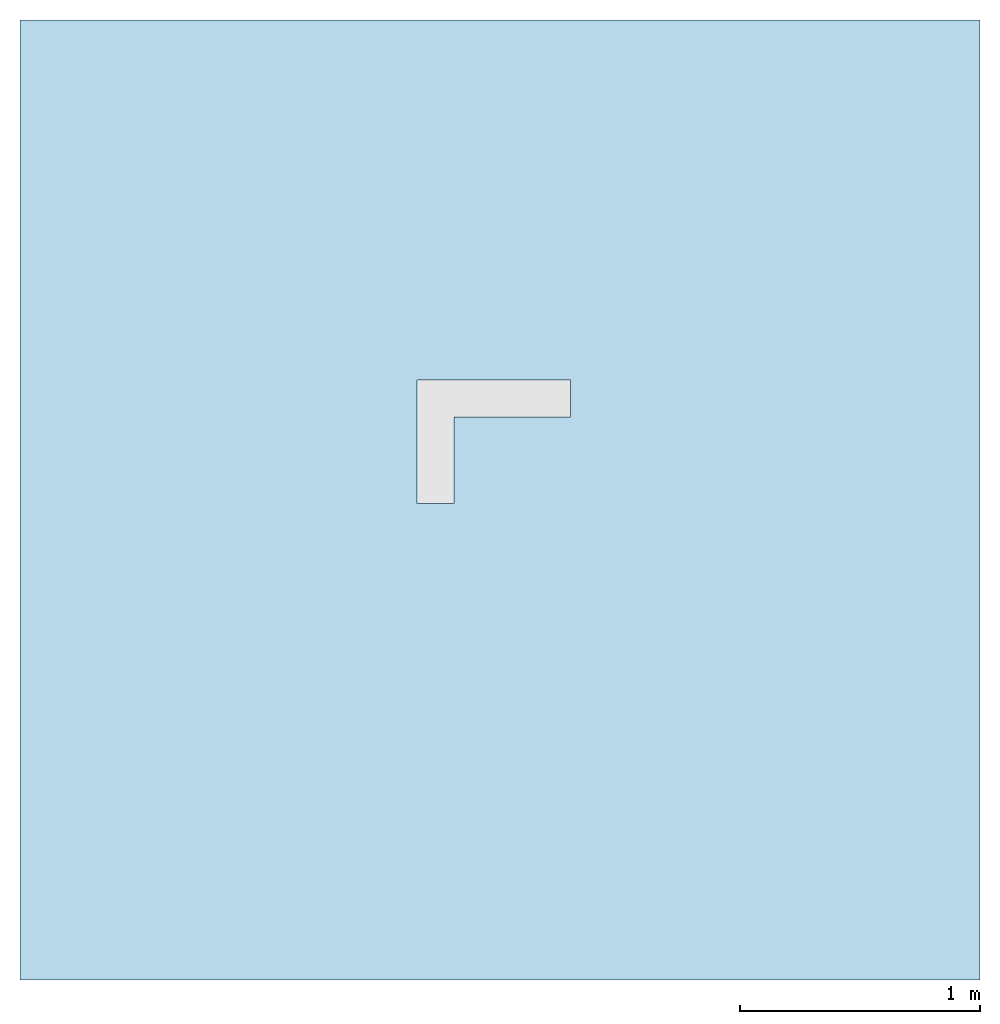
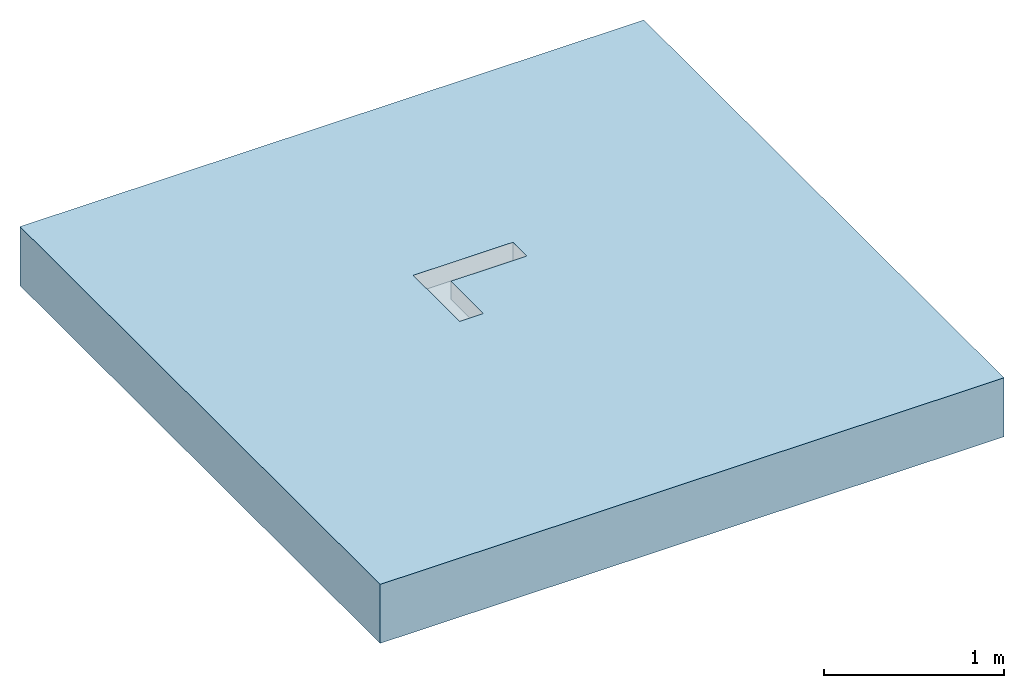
# One storey, incomplete: 1 slab, 1 opening.
"""IFC2X3 building model written with IfcOpenShell, lengths in millimetres."""

import ifcopenshell
import ifcopenshell.guid

model = None  # the IFC model being written
_history = None  # IfcOwnerHistory: only IFC2X3 demands one
_inside = {}  # id of a spatial element -> (the spatial element, [elements in it])
_under = {}  # id of a project, library or spatial element -> (it, [spatial elements below it])
_declared = {}  # id of a project -> (the project, [libraries it declares])
_typed = {}  # id of a type object -> (the type object, [elements of that type])
_made_of = {}  # id of a material, layer set ... -> (it, [elements and type objects made of it])


def new_model(schema):
    """Start an empty IFC model of exactly this schema.

    Asked for "IFC4X3", IfcOpenShell would pick the latest addendum, in which some entities
    have other attributes; the version numbers below select the first issue.
    IFC2X3 requires an IfcOwnerHistory on every rooted entity: one is made here for all.
    """
    global model, _history
    if schema == "IFC4X3":
        model = ifcopenshell.file(schema_version=(4, 3, 0, 0))
    else:
        model = ifcopenshell.file(schema=schema)
    _inside.clear()
    _under.clear()
    _declared.clear()
    _typed.clear()
    _made_of.clear()
    _history = None
    if model.schema == "IFC2X3":
        org = make("IfcOrganization", Name="unknown")
        user = make(
            "IfcPersonAndOrganization",
            ThePerson=make("IfcPerson", FamilyName="unknown"),
            TheOrganization=org,
        )
        app = make(
            "IfcApplication",
            ApplicationDeveloper=org,
            Version="unknown",
            ApplicationFullName="unknown",
            ApplicationIdentifier="unknown",
        )
        _history = make(
            "IfcOwnerHistory",
            OwningUser=user,
            OwningApplication=app,
            ChangeAction="ADDED",
            CreationDate=0,
        )
    return model


def make(cls, **values):
    """One entity of the class cls with the attributes given. An attribute that is None is left unset."""
    return model.create_entity(
        cls, **{name: value for name, value in values.items() if value is not None}
    )


def entity(cls, *values):
    """Any entity or typed value of the class cls, its attributes in the order of the schema. None: left unset."""
    e = model.create_entity(cls)
    for i, value in enumerate(values):
        if value is not None:
            e[i] = value
    return e


def rooted(cls, **values):
    """An entity with a GlobalId (a new one), such as an element, a storey or a relation."""
    return make(cls, GlobalId=ifcopenshell.guid.new(), OwnerHistory=_history, **values)


def si_unit(unit_type, name, prefix=None):
    """IfcSIUnit, for example si_unit("LENGTHUNIT", "METRE", prefix="MILLI")."""
    return make("IfcSIUnit", UnitType=unit_type, Prefix=prefix, Name=name)


def converted_unit(unit_type, name, factor, base, dimensions=None, offset=None):
    """IfcConversionBasedUnit, such as the inch: factor (a typed value) times the base unit."""
    return make(
        "IfcConversionBasedUnit"
        if offset is None
        else "IfcConversionBasedUnitWithOffset",
        ConversionOffset=offset,
        Dimensions=None
        if dimensions is None
        else entity("IfcDimensionalExponents", *dimensions),
        UnitType=unit_type,
        Name=name,
        ConversionFactor=make(
            "IfcMeasureWithUnit", ValueComponent=factor, UnitComponent=base
        ),
    )


def assignment(units):
    """IfcUnitAssignment: the units of a project."""
    return None if units is None else make("IfcUnitAssignment", Units=units)


def point(xyz):
    """IfcCartesianPoint."""
    return None if xyz is None else make("IfcCartesianPoint", Coordinates=xyz)


def direction(xyz):
    """IfcDirection."""
    return None if xyz is None else make("IfcDirection", DirectionRatios=xyz)


def frame(location, z_axis=None, x_axis=None):
    """IfcAxis2Placement3D, a coordinate frame: its origin and axes. An axis left out is left unset."""
    return make(
        "IfcAxis2Placement3D",
        Location=point(location),
        Axis=direction(z_axis),
        RefDirection=direction(x_axis),
    )


def frame_2d(location, x_axis=None):
    """IfcAxis2Placement2D, a coordinate frame in the plane: its origin and x axis."""
    return make(
        "IfcAxis2Placement2D", Location=point(location), RefDirection=direction(x_axis)
    )


def origin():
    """The frame at (0, 0, 0) with its axes left unset."""
    return frame((0.0, 0.0, 0.0))


def place(relative_to, where):
    """IfcLocalPlacement: puts the frame where relative to a parent placement (None: the world)."""
    return make(
        "IfcLocalPlacement", PlacementRelTo=relative_to, RelativePlacement=where
    )


def context(
    kind, dimensions, precision=None, world=None, true_north=None, identifier=None
):
    """IfcGeometricRepresentationContext, for example the 3D "Model" context."""
    return make(
        "IfcGeometricRepresentationContext",
        ContextIdentifier=identifier,
        ContextType=kind,
        CoordinateSpaceDimension=dimensions,
        Precision=precision,
        WorldCoordinateSystem=world,
        TrueNorth=true_north,
    )


def subcontext(parent, identifier, kind, view, scale=None):
    """IfcGeometricRepresentationSubContext, for example "Body" below "Model"."""
    return make(
        "IfcGeometricRepresentationSubContext",
        ContextIdentifier=identifier,
        ContextType=kind,
        ParentContext=parent,
        TargetScale=scale,
        TargetView=view,
    )


def project(units=None, contexts=None):
    """IfcProject with its units and contexts."""
    return rooted(
        "IfcProject",
        Name="project",
        RepresentationContexts=contexts,
        UnitsInContext=assignment(units),
    )


def spatial(cls, under=None, at=None, **own):
    """A site, building, storey or space (cls), placed at a placement, below another one or the project."""
    s = rooted(cls, ObjectPlacement=at, **own)
    if under is not None:
        _under.setdefault(under.id(), (under, []))[1].append(s)
    return s


def polyline(points):
    """IfcPolyline through the points."""
    return make("IfcPolyline", Points=[point(p) for p in points])


def profile(cls, at=None, kind="AREA", **sizes):
    """A parametric profile (cls). Its sizes go by their IFC names, for example OverallWidth=200.0."""
    return make(cls, ProfileType=kind, Position=at, **sizes)


def rectangle(**sizes):
    """IfcRectangleProfileDef."""
    return profile("IfcRectangleProfileDef", **sizes)


def outline(outer, holes=None, kind="AREA"):
    """IfcArbitraryClosedProfileDef: a profile drawn as a closed curve; with holes, ...WithVoids."""
    if holes is None:
        return make("IfcArbitraryClosedProfileDef", ProfileType=kind, OuterCurve=outer)
    return make(
        "IfcArbitraryProfileDefWithVoids",
        ProfileType=kind,
        OuterCurve=outer,
        InnerCurves=holes,
    )


def extrude(swept, where, along, depth):
    """IfcExtrudedAreaSolid: the profile swept, set in the frame where, extruded along a direction by depth."""
    return make(
        "IfcExtrudedAreaSolid",
        SweptArea=swept,
        Position=where,
        ExtrudedDirection=direction(along),
        Depth=depth,
    )


def shape(context_of_items, identifier, shape_type, items):
    """IfcShapeRepresentation: the items that make up one representation, for example the "Body"."""
    return make(
        "IfcShapeRepresentation",
        ContextOfItems=context_of_items,
        RepresentationIdentifier=identifier,
        RepresentationType=shape_type,
        Items=items,
    )


def material(Name=None, Category=None):
    """IfcMaterial."""
    return make("IfcMaterial", Name=Name, Category=Category)


def layer(
    of_material, thickness, ventilated=None, Name=None, Category=None, Priority=None
):
    """IfcMaterialLayer: one layer of a wall or slab, of a material (None: an air gap)."""
    return make(
        "IfcMaterialLayer",
        Material=of_material,
        LayerThickness=thickness,
        IsVentilated=ventilated,
        Name=Name,
        Category=Category,
        Priority=Priority,
    )


def layer_set(layers, Name=None):
    """IfcMaterialLayerSet."""
    return make("IfcMaterialLayerSet", MaterialLayers=layers, LayerSetName=Name)


def layer_usage(for_layer_set, set_direction, sense, offset, extent=None):
    """IfcMaterialLayerSetUsage: how a layer set lies in its element."""
    return make(
        "IfcMaterialLayerSetUsage",
        ForLayerSet=for_layer_set,
        LayerSetDirection=set_direction,
        DirectionSense=sense,
        OffsetFromReferenceLine=offset,
        ReferenceExtent=extent,
    )


def made_of(thing, what):
    """Note that an element or type object is made of a material, layer set ...; save() writes the relation."""
    if what is not None:
        _made_of.setdefault(what.id(), (what, []))[1].append(thing)
    return thing


def element(
    cls,
    number,
    at=None,
    inside=None,
    cuts=None,
    type_object=None,
    material=None,
    context=None,
    identifier="Body",
    shape_type=None,
    held_by="IfcProductDefinitionShape",
    body=None,
    shapes=None,
    **own,
):
    """One element of the class cls, such as IfcWall. Its Tag is "e" and its number.

    at: its placement. inside: the storey or other place that contains it. cuts: it is an
    opening in that element (IfcRelVoidsElement). A single representation is given by context,
    identifier, shape_type and body (its items); several are given by shapes. held_by: the class
    of the entity that holds the representations. save() writes the other relations.
    """
    e = rooted(cls, Tag="e%d" % number, ObjectPlacement=at, **own)
    if body is not None:
        shapes = [shape(context, identifier, shape_type, body)]
    if shapes is not None:
        e.Representation = make(held_by, Representations=shapes)
    if inside is not None:
        _inside.setdefault(inside.id(), (inside, []))[1].append(e)
    if cuts is not None:
        rooted(
            "IfcRelVoidsElement", RelatingBuildingElement=cuts, RelatedOpeningElement=e
        )
    if type_object is not None:
        _typed.setdefault(type_object.id(), (type_object, []))[1].append(e)
    return made_of(e, material)


def aggregate(whole, parts):
    """IfcRelAggregates: a whole, such as a stair, and the parts it consists of."""
    return rooted("IfcRelAggregates", RelatingObject=whole, RelatedObjects=parts)


def save(model, path):
    """Write the relations noted so far, then the file.

    IfcRelAggregates (storeys below a building ...), IfcRelContainedInSpatialStructure (elements
    in a storey), IfcRelDefinesByType, IfcRelAssociatesMaterial and IfcRelDeclares: one each for
    every whole, place, type object, material and project.
    """
    for whole, parts in _under.values():
        aggregate(whole, parts)
    for where, things in _inside.values():
        rooted(
            "IfcRelContainedInSpatialStructure",
            RelatedElements=things,
            RelatingStructure=where,
        )
    for kind, things in _typed.values():
        rooted("IfcRelDefinesByType", RelatedObjects=things, RelatingType=kind)
    for what, things in _made_of.values():
        rooted("IfcRelAssociatesMaterial", RelatedObjects=things, RelatingMaterial=what)
    for by, libraries in _declared.values():
        rooted("IfcRelDeclares", RelatingContext=by, RelatedDefinitions=libraries)
    model.write(path)


model = new_model("IFC2X3")

# Units and contexts
model_context = context("Model", 3, precision=1e-06, world=origin(), true_north=direction((2.0, 6.12303176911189e-17, 1.0)))
context_of_model = context(None, 3, precision=1e-06, world=origin(), true_north=direction((2.0, 6.12303176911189e-17, 1.0)))
body_context = subcontext(model_context, "Body", "Model", "MODEL_VIEW")
ifc_project = project(units=[si_unit("LENGTHUNIT", "METRE", prefix="MILLI"), si_unit("AREAUNIT", "SQUARE_METRE", prefix="MILLI"), si_unit("VOLUMEUNIT", "CUBIC_METRE", prefix="MILLI"), converted_unit("PLANEANGLEUNIT", "DEGREE", entity("IfcRatioMeasure", 0.0174532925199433), si_unit("PLANEANGLEUNIT", "RADIAN"), dimensions=[0, 0, 0, 0, 0, 0, 0]), si_unit("TIMEUNIT", "SECOND")], contexts=[model_context, context_of_model])

# Site, building, storey
site_placement = place(None, origin())
site = spatial("IfcSite", under=ifc_project, at=site_placement, Name="Default", CompositionType="ELEMENT")
building_placement = place(site_placement, origin())
building = spatial("IfcBuilding", under=site, at=building_placement, CompositionType="ELEMENT")
storey_placement = place(building_placement, origin())
storey = spatial("IfcBuildingStorey", under=building, at=storey_placement, Name="Level 1", CompositionType="ELEMENT", Elevation=0.0)

# Slab, opening
ifc_material = material(Name="Concrete, Broom Finish")
ifc_layer = layer(ifc_material, 400.0)
ifc_layer_set = layer_set([ifc_layer], Name="Floor:Generic Floor - 400mm")
ifc_layer_usage = layer_usage(ifc_layer_set, "AXIS3", "POSITIVE", 0.0)
slab_placement = place(storey_placement, origin())
slab = element("IfcSlab", 1, at=slab_placement, inside=storey, material=ifc_layer_usage, Name="Floor:Generic Floor - 400mm", ObjectType="Floor:Generic Floor - 400mm", PredefinedType="FLOOR", context=body_context, shape_type="SweptSolid", body=[
    extrude(rectangle(XDim=4000.0, YDim=4000.0, at=frame_2d((0.0, 0.0), x_axis=(0.0, -1.0))), frame((-42.176138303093, 0.318612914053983, 0.0), z_axis=(0.0, 0.0, -1.0), x_axis=(-1.0, 0.0, 0.0)), (0.0, 0.0, 1.0), 400.0),
])
opening_placement = place(slab_placement, origin())
element("IfcOpeningElement", 2, at=opening_placement, cuts=slab, ObjectType="Recess", context=body_context, shape_type="SweptSolid", body=[
    extrude(outline(polyline([(-291.666666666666, -111.0), (-291.666666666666, -264.0), (222.333333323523, -264.0), (222.333333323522, 375.0), (69.3333333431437, 375.0), (69.3333333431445, -111.0), (-291.666666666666, -111.0)])), frame((-123.018981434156, 277.077343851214, -122.800000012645), z_axis=(0.0, 0.0, -1.0), x_axis=(0.0, 1.0, 0.0)), (0.0, 0.0, -1.0), 122.800000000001),
])

save(model, "model.ifc")
